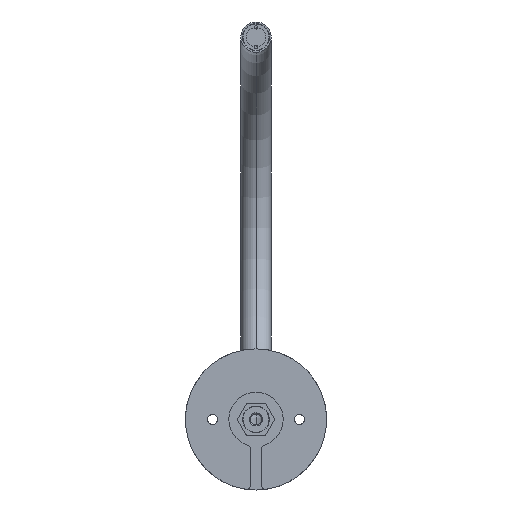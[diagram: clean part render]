
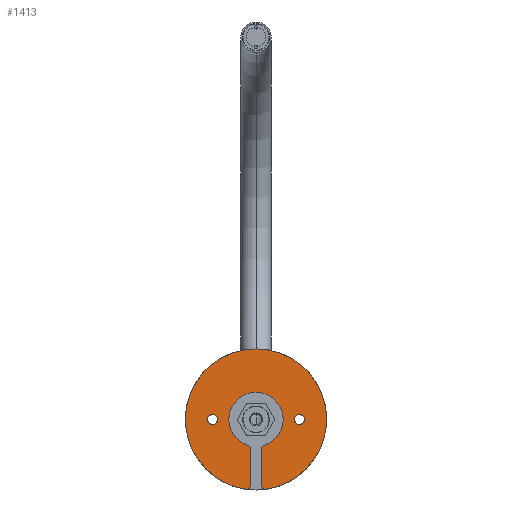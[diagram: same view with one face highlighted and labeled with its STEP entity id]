
A CAD part, front view. The second image highlights one B-rep face of the part: STEP entity #1413.
In plain terms, the highlighted planar face has unit normal (0, -1, 0).
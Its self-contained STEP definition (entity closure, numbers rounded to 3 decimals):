
#19 = CIRCLE ( 'NONE', #40, 2. ) ;
#40 = AXIS2_PLACEMENT_3D ( 'NONE', #2760, #1689, #1418 ) ;
#102 = CIRCLE ( 'NONE', #756, 2. ) ;
#132 = AXIS2_PLACEMENT_3D ( 'NONE', #192, #2088, #731 ) ;
#134 = CARTESIAN_POINT ( 'NONE',  ( -20., 0., 0. ) ) ;
#144 = CARTESIAN_POINT ( 'NONE',  ( -4.5, 0., -13.784 ) ) ;
#146 = DIRECTION ( 'NONE',  ( 0., 0., 1. ) ) ;
#192 = CARTESIAN_POINT ( 'NONE',  ( 20., 0., 0. ) ) ;
#222 = CARTESIAN_POINT ( 'NONE',  ( 20., 0., 2.25 ) ) ;
#234 = CARTESIAN_POINT ( 'NONE',  ( 0., 0., 0. ) ) ;
#259 = EDGE_CURVE ( 'NONE', #2114, #3458, #1227, .T. ) ;
#284 = LINE ( 'NONE', #1709, #1818 ) ;
#329 = DIRECTION ( 'NONE',  ( 0., 1., 0. ) ) ;
#342 = CARTESIAN_POINT ( 'NONE',  ( -3.879, 0., -11.883 ) ) ;
#374 = FACE_BOUND ( 'NONE', #1975, .T. ) ;
#420 = ORIENTED_EDGE ( 'NONE', *, *, #2062, .F. ) ;
#432 = ORIENTED_EDGE ( 'NONE', *, *, #2727, .T. ) ;
#441 = CARTESIAN_POINT ( 'NONE',  ( -20., 0., -2.25 ) ) ;
#465 = EDGE_CURVE ( 'NONE', #2037, #3392, #284, .T. ) ;
#473 = CARTESIAN_POINT ( 'NONE',  ( -2.5, 0., -30.166 ) ) ;
#501 = DIRECTION ( 'NONE',  ( 0., 1., 0. ) ) ;
#600 = AXIS2_PLACEMENT_3D ( 'NONE', #3100, #3169, #1527 ) ;
#624 = AXIS2_PLACEMENT_3D ( 'NONE', #3363, #2273, #647 ) ;
#639 = EDGE_LOOP ( 'NONE', ( #2461, #3226, #1482, #2386, #1723, #2324, #2135, #1609, #3164, #2384, #420 ) ) ;
#647 = DIRECTION ( 'NONE',  ( 0., 0., 1. ) ) ;
#648 = EDGE_CURVE ( 'NONE', #2998, #2338, #2368, .T. ) ;
#650 = VERTEX_POINT ( 'NONE', #1023 ) ;
#715 = EDGE_CURVE ( 'NONE', #1071, #2024, #1653, .T. ) ;
#731 = DIRECTION ( 'NONE',  ( 0., 0., 1. ) ) ;
#756 = AXIS2_PLACEMENT_3D ( 'NONE', #2028, #2000, #146 ) ;
#767 = CIRCLE ( 'NONE', #132, 2.25 ) ;
#792 = CARTESIAN_POINT ( 'NONE',  ( 4.795, 0., -32.144 ) ) ;
#802 = CARTESIAN_POINT ( 'NONE',  ( -20., 0., 0. ) ) ;
#886 = AXIS2_PLACEMENT_3D ( 'NONE', #134, #2560, #2528 ) ;
#914 = AXIS2_PLACEMENT_3D ( 'NONE', #234, #3204, #2987 ) ;
#957 = DIRECTION ( 'NONE',  ( 0., -1., 0. ) ) ;
#988 = AXIS2_PLACEMENT_3D ( 'NONE', #802, #2949, #1297 ) ;
#1023 = CARTESIAN_POINT ( 'NONE',  ( 0., 0., 32.5 ) ) ;
#1025 = CARTESIAN_POINT ( 'NONE',  ( 20., 0., 0. ) ) ;
#1071 = VERTEX_POINT ( 'NONE', #1947 ) ;
#1200 = EDGE_CURVE ( 'NONE', #2024, #1071, #1398, .T. ) ;
#1210 = CIRCLE ( 'NONE', #3514, 2. ) ;
#1227 = CIRCLE ( 'NONE', #624, 2. ) ;
#1244 = DIRECTION ( 'NONE',  ( 0., 1., 0. ) ) ;
#1297 = DIRECTION ( 'NONE',  ( 0., 0., 1. ) ) ;
#1330 = CIRCLE ( 'NONE', #1949, 2. ) ;
#1361 = CARTESIAN_POINT ( 'NONE',  ( 4.5, 0., -32.166 ) ) ;
#1398 = CIRCLE ( 'NONE', #886, 2.25 ) ;
#1405 = AXIS2_PLACEMENT_3D ( 'NONE', #1025, #501, #2393 ) ;
#1413 = ADVANCED_FACE ( 'NONE', ( #2317, #2785, #374 ), #1591, .F. ) ;
#1418 = DIRECTION ( 'NONE',  ( 0., 0., 1. ) ) ;
#1426 = AXIS2_PLACEMENT_3D ( 'NONE', #2823, #3371, #3096 ) ;
#1459 = EDGE_LOOP ( 'NONE', ( #3472, #432 ) ) ;
#1482 = ORIENTED_EDGE ( 'NONE', *, *, #2439, .T. ) ;
#1527 = DIRECTION ( 'NONE',  ( 0., 0., 1. ) ) ;
#1549 = CARTESIAN_POINT ( 'NONE',  ( 2.5, 0., -30.166 ) ) ;
#1558 = VERTEX_POINT ( 'NONE', #342 ) ;
#1591 = PLANE ( 'NONE',  #914 ) ;
#1609 = ORIENTED_EDGE ( 'NONE', *, *, #3207, .T. ) ;
#1628 = VECTOR ( 'NONE', #3121, 1000. ) ;
#1653 = CIRCLE ( 'NONE', #988, 2.25 ) ;
#1689 = DIRECTION ( 'NONE',  ( 0., -1., 0. ) ) ;
#1709 = CARTESIAN_POINT ( 'NONE',  ( -2.5, 0., -3.574 ) ) ;
#1723 = ORIENTED_EDGE ( 'NONE', *, *, #3197, .T. ) ;
#1750 = EDGE_CURVE ( 'NONE', #1558, #2418, #2614, .T. ) ;
#1818 = VECTOR ( 'NONE', #3348, 1000. ) ;
#1832 = EDGE_CURVE ( 'NONE', #2114, #650, #3211, .T. ) ;
#1838 = LINE ( 'NONE', #2595, #1628 ) ;
#1847 = DIRECTION ( 'NONE',  ( 0., -1., 0. ) ) ;
#1855 = DIRECTION ( 'NONE',  ( 0., 0., 1. ) ) ;
#1921 = CIRCLE ( 'NONE', #1405, 2.25 ) ;
#1947 = CARTESIAN_POINT ( 'NONE',  ( -20., 0., 2.25 ) ) ;
#1949 = AXIS2_PLACEMENT_3D ( 'NONE', #3464, #1847, #1855 ) ;
#1975 = EDGE_LOOP ( 'NONE', ( #2799, #2026 ) ) ;
#2000 = DIRECTION ( 'NONE',  ( 0., -1., 0. ) ) ;
#2024 = VERTEX_POINT ( 'NONE', #441 ) ;
#2026 = ORIENTED_EDGE ( 'NONE', *, *, #1200, .T. ) ;
#2028 = CARTESIAN_POINT ( 'NONE',  ( 4.5, 0., -13.784 ) ) ;
#2037 = VERTEX_POINT ( 'NONE', #2603 ) ;
#2057 = DIRECTION ( 'NONE',  ( 0., 0., 1. ) ) ;
#2062 = EDGE_CURVE ( 'NONE', #650, #2249, #2640, .T. ) ;
#2088 = DIRECTION ( 'NONE',  ( 0., 1., 0. ) ) ;
#2114 = VERTEX_POINT ( 'NONE', #3455 ) ;
#2135 = ORIENTED_EDGE ( 'NONE', *, *, #2455, .T. ) ;
#2204 = VERTEX_POINT ( 'NONE', #2630 ) ;
#2220 = VERTEX_POINT ( 'NONE', #222 ) ;
#2249 = VERTEX_POINT ( 'NONE', #792 ) ;
#2273 = DIRECTION ( 'NONE',  ( 0., -1., 0. ) ) ;
#2297 = AXIS2_PLACEMENT_3D ( 'NONE', #2495, #329, #2774 ) ;
#2317 = FACE_OUTER_BOUND ( 'NONE', #639, .T. ) ;
#2324 = ORIENTED_EDGE ( 'NONE', *, *, #1750, .T. ) ;
#2338 = VERTEX_POINT ( 'NONE', #1361 ) ;
#2368 = CIRCLE ( 'NONE', #600, 2. ) ;
#2384 = ORIENTED_EDGE ( 'NONE', *, *, #2819, .T. ) ;
#2386 = ORIENTED_EDGE ( 'NONE', *, *, #465, .F. ) ;
#2393 = DIRECTION ( 'NONE',  ( 0., 0., 1. ) ) ;
#2418 = VERTEX_POINT ( 'NONE', #3338 ) ;
#2439 = EDGE_CURVE ( 'NONE', #3458, #3392, #19, .T. ) ;
#2455 = EDGE_CURVE ( 'NONE', #2418, #2204, #102, .T. ) ;
#2461 = ORIENTED_EDGE ( 'NONE', *, *, #1832, .F. ) ;
#2495 = CARTESIAN_POINT ( 'NONE',  ( 0., 0., 0. ) ) ;
#2528 = DIRECTION ( 'NONE',  ( 0., 0., 1. ) ) ;
#2560 = DIRECTION ( 'NONE',  ( 0., 1., 0. ) ) ;
#2595 = CARTESIAN_POINT ( 'NONE',  ( 2.5, 0., -3.574 ) ) ;
#2603 = CARTESIAN_POINT ( 'NONE',  ( -2.5, 0., -13.784 ) ) ;
#2614 = CIRCLE ( 'NONE', #2297, 12.5 ) ;
#2630 = CARTESIAN_POINT ( 'NONE',  ( 2.5, 0., -13.784 ) ) ;
#2640 = CIRCLE ( 'NONE', #2756, 32.5 ) ;
#2717 = CARTESIAN_POINT ( 'NONE',  ( -4.5, 0., -32.166 ) ) ;
#2727 = EDGE_CURVE ( 'NONE', #3132, #2220, #767, .T. ) ;
#2756 = AXIS2_PLACEMENT_3D ( 'NONE', #2858, #1244, #3130 ) ;
#2760 = CARTESIAN_POINT ( 'NONE',  ( -4.5, 0., -30.166 ) ) ;
#2774 = DIRECTION ( 'NONE',  ( 0., 0., 1. ) ) ;
#2785 = FACE_BOUND ( 'NONE', #1459, .T. ) ;
#2799 = ORIENTED_EDGE ( 'NONE', *, *, #715, .T. ) ;
#2819 = EDGE_CURVE ( 'NONE', #2338, #2249, #1330, .T. ) ;
#2823 = CARTESIAN_POINT ( 'NONE',  ( 0., 0., 0. ) ) ;
#2858 = CARTESIAN_POINT ( 'NONE',  ( 0., 0., 0. ) ) ;
#2949 = DIRECTION ( 'NONE',  ( 0., 1., 0. ) ) ;
#2987 = DIRECTION ( 'NONE',  ( 0., 0., 1. ) ) ;
#2998 = VERTEX_POINT ( 'NONE', #1549 ) ;
#3096 = DIRECTION ( 'NONE',  ( 0., 0., 1. ) ) ;
#3100 = CARTESIAN_POINT ( 'NONE',  ( 4.5, 0., -30.166 ) ) ;
#3121 = DIRECTION ( 'NONE',  ( 0., 0., -1. ) ) ;
#3130 = DIRECTION ( 'NONE',  ( 0., 0., 1. ) ) ;
#3132 = VERTEX_POINT ( 'NONE', #3230 ) ;
#3164 = ORIENTED_EDGE ( 'NONE', *, *, #648, .T. ) ;
#3169 = DIRECTION ( 'NONE',  ( 0., -1., 0. ) ) ;
#3197 = EDGE_CURVE ( 'NONE', #2037, #1558, #1210, .T. ) ;
#3204 = DIRECTION ( 'NONE',  ( 0., 1., 0. ) ) ;
#3207 = EDGE_CURVE ( 'NONE', #2204, #2998, #1838, .T. ) ;
#3211 = CIRCLE ( 'NONE', #1426, 32.5 ) ;
#3226 = ORIENTED_EDGE ( 'NONE', *, *, #259, .T. ) ;
#3230 = CARTESIAN_POINT ( 'NONE',  ( 20., 0., -2.25 ) ) ;
#3278 = EDGE_CURVE ( 'NONE', #2220, #3132, #1921, .T. ) ;
#3338 = CARTESIAN_POINT ( 'NONE',  ( 3.879, 0., -11.883 ) ) ;
#3348 = DIRECTION ( 'NONE',  ( 0., 0., -1. ) ) ;
#3363 = CARTESIAN_POINT ( 'NONE',  ( -4.5, 0., -30.166 ) ) ;
#3371 = DIRECTION ( 'NONE',  ( 0., 1., 0. ) ) ;
#3392 = VERTEX_POINT ( 'NONE', #473 ) ;
#3455 = CARTESIAN_POINT ( 'NONE',  ( -4.795, 0., -32.144 ) ) ;
#3458 = VERTEX_POINT ( 'NONE', #2717 ) ;
#3464 = CARTESIAN_POINT ( 'NONE',  ( 4.5, 0., -30.166 ) ) ;
#3472 = ORIENTED_EDGE ( 'NONE', *, *, #3278, .T. ) ;
#3514 = AXIS2_PLACEMENT_3D ( 'NONE', #144, #957, #2057 ) ;
